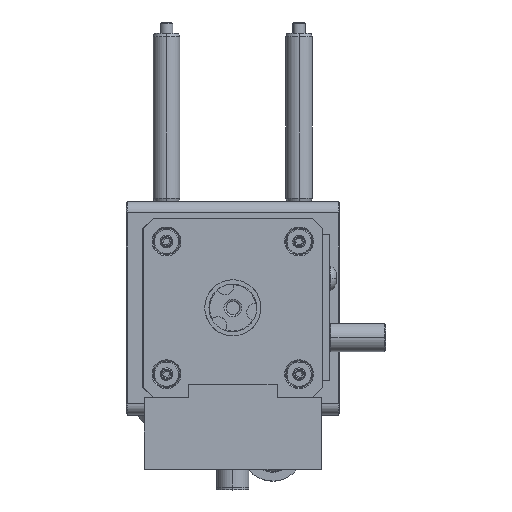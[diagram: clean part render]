
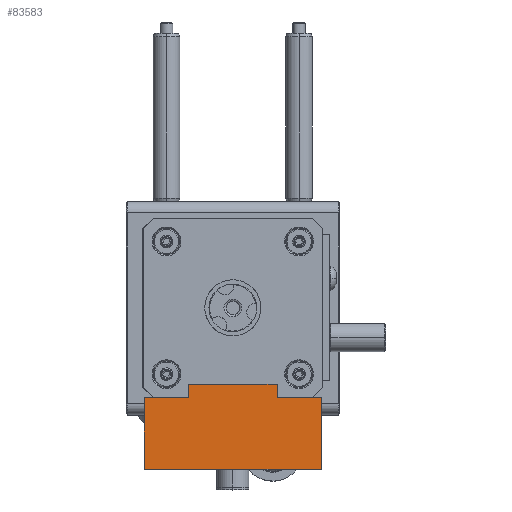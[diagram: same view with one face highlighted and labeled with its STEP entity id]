
A CAD part, top view. The second image highlights one B-rep face of the part: STEP entity #83583.
In plain terms, the highlighted planar face has unit normal (0, 0, 1) as drawn and (0, -1, 0) by its records, which use the part's own axes.
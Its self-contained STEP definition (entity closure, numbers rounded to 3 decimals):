
#1103 = ORIENTED_EDGE ( 'NONE', *, *, #169638, .F. ) ;
#9296 = FACE_OUTER_BOUND ( 'NONE', #164537, .T. ) ;
#11378 = VERTEX_POINT ( 'NONE', #136854 ) ;
#14224 = EDGE_CURVE ( 'NONE', #161654, #11378, #18710, .T. ) ;
#18710 = LINE ( 'NONE', #54998, #101297 ) ;
#19481 = ORIENTED_EDGE ( 'NONE', *, *, #37765, .F. ) ;
#23259 = DIRECTION ( 'NONE',  ( 1., 0., 0. ) ) ;
#28801 = VERTEX_POINT ( 'NONE', #117992 ) ;
#31070 = DIRECTION ( 'NONE',  ( 0., 0., -1. ) ) ;
#36055 = VERTEX_POINT ( 'NONE', #95438 ) ;
#37765 = EDGE_CURVE ( 'NONE', #36055, #28801, #71192, .T. ) ;
#44362 = EDGE_CURVE ( 'NONE', #119059, #36055, #134214, .T. ) ;
#48858 = CARTESIAN_POINT ( 'NONE',  ( 26.091, 0., -11.182 ) ) ;
#54998 = CARTESIAN_POINT ( 'NONE',  ( -3.909, 0., 8.045 ) ) ;
#55898 = VERTEX_POINT ( 'NONE', #157195 ) ;
#62133 = ORIENTED_EDGE ( 'NONE', *, *, #111907, .F. ) ;
#69963 = DIRECTION ( 'NONE',  ( 0., 0., -1. ) ) ;
#70761 = DIRECTION ( 'NONE',  ( 1., 0., 0. ) ) ;
#71192 = LINE ( 'NONE', #146762, #74485 ) ;
#72207 = EDGE_CURVE ( 'NONE', #161654, #154325, #98890, .T. ) ;
#72493 = VECTOR ( 'NONE', #23259, 1000. ) ;
#73570 = DIRECTION ( 'NONE',  ( 0., 0., -1. ) ) ;
#74485 = VECTOR ( 'NONE', #132595, 1000. ) ;
#74630 = ORIENTED_EDGE ( 'NONE', *, *, #76012, .F. ) ;
#76012 = EDGE_CURVE ( 'NONE', #55898, #144327, #149965, .T. ) ;
#80088 = ORIENTED_EDGE ( 'NONE', *, *, #127607, .F. ) ;
#83007 = CARTESIAN_POINT ( 'NONE',  ( 0., 0., 0. ) ) ;
#83583 = ADVANCED_FACE ( 'NONE', ( #9296 ), #97179, .T. ) ;
#84652 = CARTESIAN_POINT ( 'NONE',  ( -3.909, 0., 8.045 ) ) ;
#88728 = CARTESIAN_POINT ( 'NONE',  ( 26.091, 0., 5.045 ) ) ;
#89373 = VECTOR ( 'NONE', #106810, 1000. ) ;
#91621 = CARTESIAN_POINT ( 'NONE',  ( -13.909, 0., -11.182 ) ) ;
#95438 = CARTESIAN_POINT ( 'NONE',  ( -13.909, 0., -11.182 ) ) ;
#97179 = PLANE ( 'NONE',  #146704 ) ;
#98890 = LINE ( 'NONE', #84652, #107056 ) ;
#100202 = LINE ( 'NONE', #183321, #103223 ) ;
#101297 = VECTOR ( 'NONE', #31070, 1000. ) ;
#103223 = VECTOR ( 'NONE', #69963, 1000. ) ;
#106810 = DIRECTION ( 'NONE',  ( -1., 0., 0. ) ) ;
#107056 = VECTOR ( 'NONE', #114081, 1000. ) ;
#111907 = EDGE_CURVE ( 'NONE', #144327, #119059, #156522, .T. ) ;
#114081 = DIRECTION ( 'NONE',  ( 1., 0., 0. ) ) ;
#117992 = CARTESIAN_POINT ( 'NONE',  ( -13.909, 0., 5.045 ) ) ;
#119059 = VERTEX_POINT ( 'NONE', #48858 ) ;
#127607 = EDGE_CURVE ( 'NONE', #28801, #11378, #158586, .T. ) ;
#132595 = DIRECTION ( 'NONE',  ( 0., 0., 1. ) ) ;
#134214 = LINE ( 'NONE', #91621, #89373 ) ;
#136854 = CARTESIAN_POINT ( 'NONE',  ( -3.909, 0., 5.045 ) ) ;
#142371 = DIRECTION ( 'NONE',  ( 0., 0., -1. ) ) ;
#144327 = VERTEX_POINT ( 'NONE', #88728 ) ;
#146704 = AXIS2_PLACEMENT_3D ( 'NONE', #83007, #158577, #73570 ) ;
#146762 = CARTESIAN_POINT ( 'NONE',  ( -13.909, 0., 5.045 ) ) ;
#149965 = LINE ( 'NONE', #178223, #72493 ) ;
#154046 = CARTESIAN_POINT ( 'NONE',  ( -3.909, 0., 8.045 ) ) ;
#154325 = VERTEX_POINT ( 'NONE', #164055 ) ;
#156522 = LINE ( 'NONE', #182959, #178798 ) ;
#157195 = CARTESIAN_POINT ( 'NONE',  ( 16.091, 0., 5.045 ) ) ;
#158577 = DIRECTION ( 'NONE',  ( 0., -1., 0. ) ) ;
#158586 = LINE ( 'NONE', #174631, #168155 ) ;
#161654 = VERTEX_POINT ( 'NONE', #154046 ) ;
#164055 = CARTESIAN_POINT ( 'NONE',  ( 16.091, 0., 8.045 ) ) ;
#164537 = EDGE_LOOP ( 'NONE', ( #19481, #174185, #62133, #74630, #1103, #173109, #182874, #80088 ) ) ;
#168155 = VECTOR ( 'NONE', #70761, 1000. ) ;
#169638 = EDGE_CURVE ( 'NONE', #154325, #55898, #100202, .T. ) ;
#173109 = ORIENTED_EDGE ( 'NONE', *, *, #72207, .F. ) ;
#174185 = ORIENTED_EDGE ( 'NONE', *, *, #44362, .F. ) ;
#174631 = CARTESIAN_POINT ( 'NONE',  ( -13.909, 0., 5.045 ) ) ;
#178223 = CARTESIAN_POINT ( 'NONE',  ( -13.909, 0., 5.045 ) ) ;
#178798 = VECTOR ( 'NONE', #142371, 1000. ) ;
#182874 = ORIENTED_EDGE ( 'NONE', *, *, #14224, .T. ) ;
#182959 = CARTESIAN_POINT ( 'NONE',  ( 26.091, 0., 5.045 ) ) ;
#183321 = CARTESIAN_POINT ( 'NONE',  ( 16.091, 0., 8.045 ) ) ;
